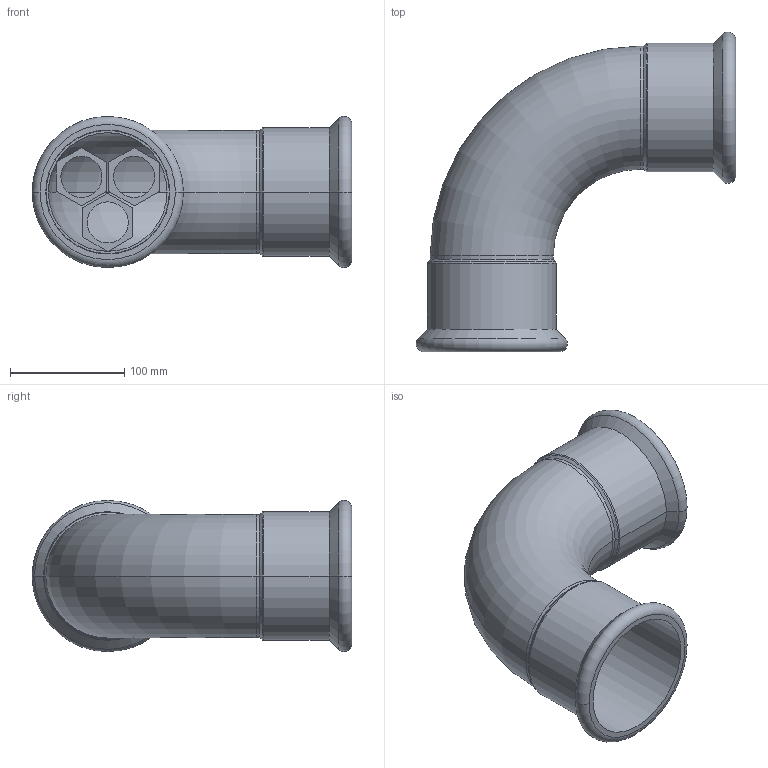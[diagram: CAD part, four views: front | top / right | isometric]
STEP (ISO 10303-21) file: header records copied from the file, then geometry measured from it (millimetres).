
FILE_DESCRIPTION(('OneSpaceDesigner STEP Export'),'2;1');
FILE_NAME('R2708 108x108.stp','2010-06-09T14:41:50',(''),(''),'OneSpace Designer STEP processor for AP214 (Solid Model)','OneSpace Modeling 15.00A 14-Mar-2007 (C) CoCreate Software GmbH','');
FILE_SCHEMA(('AUTOMOTIVE_DESIGN { 1 0 10303 214 1 1 1 1 }'));
Length unit declared in the file: millimetre
Products named in the file (2): R2708_108x108
Assembly tree (1 placements, depth 2):
  R2708_108x108
    R2708_108x108
Bounding box: 280.29 x 280.29 x 132.58 mm (x, y, z)
Volume: 376271.1 mm3; surface area: 281052.1 mm2
Topology: 1 solids, 1 shells, 118 faces, 295 edges, 189 vertices
Faces by surface type: plane 60, cylinder 38, torus 12, cone 8
Entity records: 3100 total; most frequent: ORIENTED_EDGE 590, CARTESIAN_POINT 503, DIRECTION 450, EDGE_CURVE 295, VERTEX_POINT 189, VECTOR 178, LINE 178, EDGE_LOOP 142
